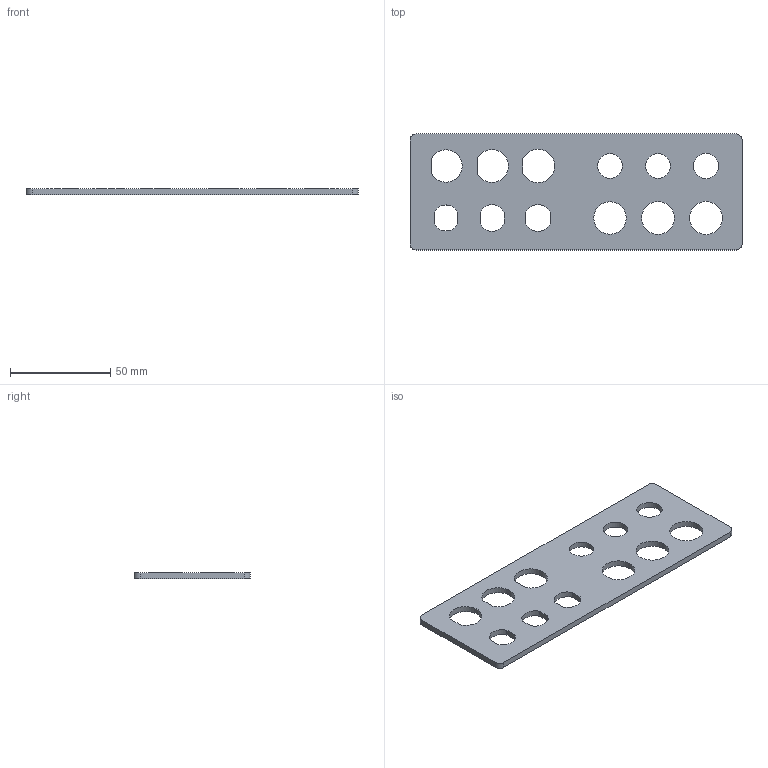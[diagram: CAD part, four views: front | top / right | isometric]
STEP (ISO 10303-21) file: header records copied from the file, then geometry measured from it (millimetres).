
FILE_DESCRIPTION(('FreeCAD Model'),'2;1');
FILE_NAME('Open CASCADE Shape Model','2026-09-11T13:41:38',( '' ),( '' ),'Open CASCADE STEP processor 7.8','FreeCAD','Unknown');
FILE_SCHEMA(('AUTOMOTIVE_DESIGN { 1 0 10303 214 1 1 1 1 }'));
Length unit declared in the file: millimetre
Products named in the file (1): Open CASCADE STEP translator 7.8 23
Bounding box: 166 x 58 x 3 mm (x, y, z)
Volume: 22813.5 mm3; surface area: 18183.5 mm2
Topology: 1 solids, 1 shells, 34 faces, 96 edges, 64 vertices
Faces by surface type: cylinder 19, plane 15
Full cylindrical faces by diameter (mm): 12.2 x1, 12.4 x1, 12.6 x1, 16.2 x1, 16.4 x1, 16.6 x1
Entity records: 1176 total; most frequent: DIRECTION 204, CARTESIAN_POINT 195, ORIENTED_EDGE 192, EDGE_CURVE 96, AXIS2_PLACEMENT_3D 73, VERTEX_POINT 64, FACE_BOUND 58, EDGE_LOOP 58
